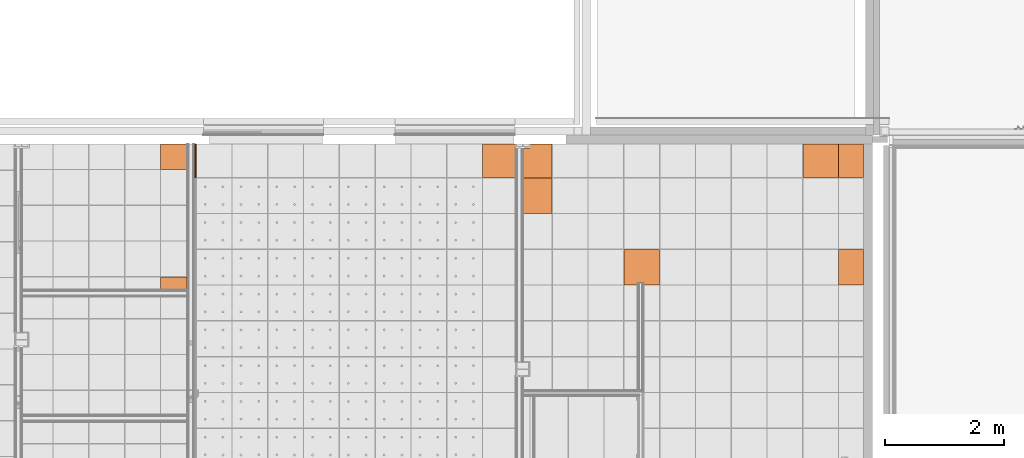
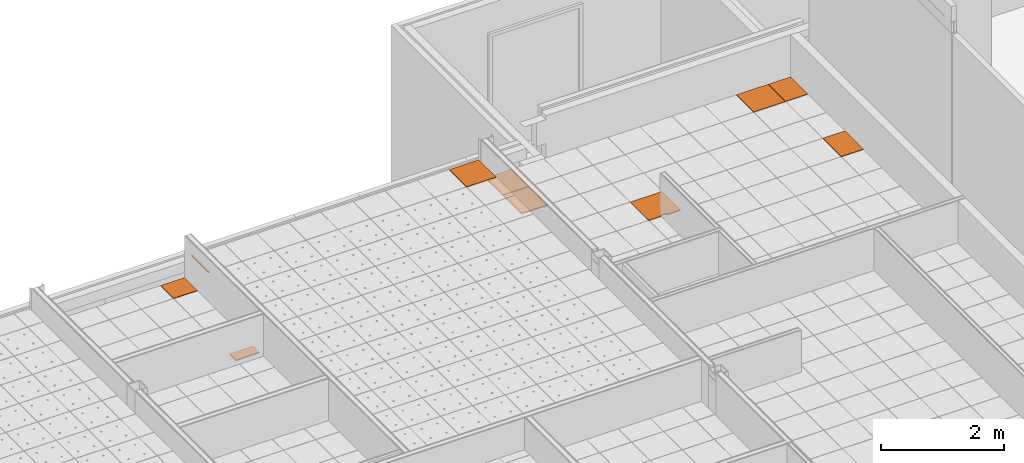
# One storey, part 336 of 338: 10 proxies, 3 elements without a shape of their own.
"""IFC2X3 building model written with IfcOpenShell, lengths in millimetres."""

from ifc_helpers import new_model, entity, si_unit, converted_unit, derived_unit, money_unit, direction, frame, origin_with_axes, place, context, subcontext, project, spatial, faceted_brep, material, type_object, element, aggregate, save


model = new_model("IFC2X3")

# Units and contexts
model_context = context("Model", 3, precision=0.01, world=origin_with_axes(), true_north=direction((0.0, 1.0)))
plan_context = context("Plan", 3, precision=0.01, world=origin_with_axes(), true_north=direction((0.0, 1.0)))
body_context = subcontext(model_context, "Body", "Model", "MODEL_VIEW")
ifc_project = project(units=[si_unit("LENGTHUNIT", "METRE", prefix="MILLI"), si_unit("AREAUNIT", "SQUARE_METRE"), si_unit("VOLUMEUNIT", "CUBIC_METRE"), converted_unit("PLANEANGLEUNIT", "DEGREE", entity("IfcPlaneAngleMeasure", 0.0174532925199), si_unit("PLANEANGLEUNIT", "RADIAN"), dimensions=[0, 0, 0, 0, 0, 0, 0]), money_unit("EUR"), converted_unit("TIMEUNIT", "Year", entity("IfcTimeMeasure", 31556926.0), si_unit("TIMEUNIT", "SECOND"), dimensions=[0, 0, 1, 0, 0, 0, 0]), si_unit("MASSUNIT", "GRAM", prefix="KILO"), si_unit("THERMODYNAMICTEMPERATUREUNIT", "DEGREE_CELSIUS"), si_unit("LUMINOUSINTENSITYUNIT", "LUMEN"), si_unit("ENERGYUNIT", "JOULE", prefix="MEGA"), derived_unit("THERMALCONDUCTANCEUNIT", [(si_unit("POWERUNIT", "WATT"), 1), (si_unit("LENGTHUNIT", "METRE"), -1), (si_unit("THERMODYNAMICTEMPERATUREUNIT", "KELVIN"), -1)]), derived_unit("SPECIFICHEATCAPACITYUNIT", [(si_unit("ENERGYUNIT", "JOULE"), 1), (si_unit("MASSUNIT", "GRAM", prefix="KILO"), -1), (si_unit("THERMODYNAMICTEMPERATUREUNIT", "KELVIN"), -1)]), derived_unit("MASSDENSITYUNIT", [(si_unit("MASSUNIT", "GRAM", prefix="KILO"), 1), (si_unit("VOLUMEUNIT", "CUBIC_METRE"), -1)])], contexts=[model_context, plan_context])

# Site, building, storey
site_placement = place(None, origin_with_axes())
site = spatial("IfcSite", under=ifc_project, at=site_placement, Name="Fortuinstraat Woensdrecht", CompositionType="ELEMENT")
building_placement = place(site_placement, origin_with_axes())
building = spatial("IfcBuilding", under=site, at=building_placement, Name="IKC Fortuna", CompositionType="ELEMENT")
storey_placement = place(building_placement, origin_with_axes())
storey = spatial("IfcBuildingStorey", under=building, at=storey_placement, Name="00 begane grond", CompositionType="ELEMENT", Elevation=0.0)

# Covering, proxy
covering_type = type_object("IfcCoveringType", Name="Curtain Wall Type", PredefinedType="CEILING")
covering_1_placement = place(storey_placement, frame((34473.6590305, 30882.3889696, 2810.0), z_axis=(0.0, 0.0, 1.0), x_axis=(1.0, 0.0, 0.0)))
covering_1 = element("IfcCovering", 1, at=covering_1_placement, inside=storey, type_object=covering_type, Name="45_Plafondafwerking_P02 v", PredefinedType="CEILING")
ifc_material = material(Name="Gipsplaat")
building_element_proxy_type_1 = type_object("IfcBuildingElementProxyType", Name="Distinct Panel 600 x 600 x 20", PredefinedType="NOTDEFINED")
proxy_1_placement = place(covering_1_placement, frame((-3519.53073382, 2258.52309173, 0.0), z_axis=(0.0, 0.0, 1.0), x_axis=(1.0, 0.0, 0.0)))
proxy_1 = element("IfcBuildingElementProxy", 2, at=proxy_1_placement, type_object=building_element_proxy_type_1, material=ifc_material, Name="__Panel-D", context=body_context, shape_type="Brep", body=[
    faceted_brep([(-287.737268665, 438.976908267, -10.0), (-287.737268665, 438.976908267, 9.99999999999), (307.262731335, 438.976908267, 9.99999999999), (307.262731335, 438.976908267, -10.0), (-287.737268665, -156.023091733, -10.0), (-287.737268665, -156.023091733, 9.99999999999), (-62.2627317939, -156.023091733, 9.99999999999), (-62.2627317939, -121.930725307, 9.99999999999), (42.7372682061, -121.930725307, 9.99999999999), (42.7372682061, -156.023091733, 9.99999999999), (307.262731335, -156.023091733, 9.99999999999), (307.262731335, -156.023091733, -10.0), (42.7372682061, -156.023091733, -10.0), (42.7372682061, -121.930725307, -10.0), (-62.2627317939, -121.930725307, -10.0), (-62.2627317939, -156.023091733, -10.0)], [[[0, 1, 2, 3]], [[4, 5, 1, 0]], [[1, 5, 6, 7, 8, 9, 10, 2]], [[3, 2, 10, 11]], [[0, 3, 11, 12, 13, 14, 15, 4]], [[15, 6, 5, 4]], [[14, 7, 6, 15]], [[13, 8, 7, 14]], [[12, 9, 8, 13]], [[11, 10, 9, 12]]]),
])

# Covering, proxies
covering_2_placement = place(storey_placement, frame((21994.4445848, 33013.5541843, 2810.0), z_axis=(0.0, 0.0, 1.0), x_axis=(1.0, 0.0, 0.0)))
covering_2 = element("IfcCovering", 3, at=covering_2_placement, inside=storey, type_object=covering_type, Name="45_Plafondafwerking_P02", PredefinedType="CEILING")
building_element_proxy_type_2 = type_object("IfcBuildingElementProxyType", Name="Distinct Panel 450 x 212 x 20", PredefinedType="NOTDEFINED")
proxy_2_placement = place(covering_2_placement, frame((1124.95518498, 6.8983752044e-06, 0.0), z_axis=(0.0, 0.0, 1.0), x_axis=(1.0, 0.0, 0.0)))
proxy_2 = element("IfcBuildingElementProxy", 4, at=proxy_2_placement, type_object=building_element_proxy_type_2, material=ifc_material, Name="__Panel-D", context=body_context, shape_type="Brep", body=[
    faceted_brep([(222.455174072, 103.742350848, -10.0), (-222.455184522, 103.742350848, -10.0), (-222.455184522, 103.742350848, 9.99999999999), (222.455174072, 103.742350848, 9.99999999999), (222.455194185, -103.742347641, -10.0), (-222.455184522, -103.742347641, -10.0), (-222.455184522, -103.742347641, 9.99999999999), (222.455194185, -103.742347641, 9.99999999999)], [[[0, 1, 2, 3]], [[0, 4, 5, 1]], [[1, 5, 6, 2]], [[3, 2, 6, 7]], [[4, 0, 3, 7]], [[5, 4, 7, 6]]]),
])
building_element_proxy_type_3 = type_object("IfcBuildingElementProxyType", Name="Distinct Panel 450 x 427 x 20", PredefinedType="NOTDEFINED")
proxy_3_placement = place(covering_2_placement, frame((1124.95518498, 2119.49240165, 0.0), z_axis=(0.0, 0.0, 1.0), x_axis=(1.0, 0.0, 0.0)))
proxy_3 = element("IfcBuildingElementProxy", 5, at=proxy_3_placement, type_object=building_element_proxy_type_3, material=ifc_material, Name="__Panel-D", context=body_context, shape_type="Brep", body=[
    faceted_brep([(222.455194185, 210.750059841, -10.0), (-222.455184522, 210.750033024, -10.0), (-222.455184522, 210.750033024, 9.99999999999), (222.455194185, 210.750059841, 9.99999999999), (222.455174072, -210.750046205, -10.0), (-222.455184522, -210.750046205, -10.0), (-222.455184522, -210.750046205, 9.99999999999), (222.455174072, -210.750046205, 9.99999999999)], [[[0, 1, 2, 3]], [[0, 4, 5, 1]], [[1, 5, 6, 2]], [[3, 2, 6, 7]], [[4, 0, 3, 7]], [[5, 4, 7, 6]]]),
])
aggregate(covering_2, [proxy_2, proxy_3])

# Proxy
building_element_proxy_type_4 = type_object("IfcBuildingElementProxyType", Name="Distinct Panel 420 x 600 x 20", PredefinedType="NOTDEFINED")
proxy_4_placement = place(covering_1_placement, frame((0.0, 2400.0, 1.80300219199e-10), z_axis=(0.0, 0.0, 1.0), x_axis=(1.0, 0.0, 0.0)))
proxy_4 = element("IfcBuildingElementProxy", 6, at=proxy_4_placement, type_object=building_element_proxy_type_4, material=ifc_material, Name="__Panel-D", context=body_context, shape_type="Brep", body=[
    faceted_brep([(-207.268001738, 297.5, -10.0), (-207.268001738, 297.5, 9.99999999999), (207.268002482, 297.5, 9.99999999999), (207.268002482, 297.5, -10.0), (-207.268001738, -297.5, -10.0), (-207.268001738, -297.5, 9.99999999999), (207.268002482, -297.5, 9.99999999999), (207.268002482, -297.5, -10.0)], [[[0, 1, 2, 3]], [[4, 5, 1, 0]], [[1, 5, 6, 2]], [[3, 2, 6, 7]], [[0, 3, 7, 4]], [[7, 6, 5, 4]]]),
])

building_element_proxy_type_5 = type_object("IfcBuildingElementProxyType", Name="Distinct Panel 487 x 600 x 20", PredefinedType="NOTDEFINED")
proxy_5_placement = place(covering_1_placement, frame((-5253.24603815, 3600.0, 0.0), z_axis=(0.0, 0.0, 1.0), x_axis=(1.0, 0.0, 0.0)))
proxy_5 = element("IfcBuildingElementProxy", 7, at=proxy_5_placement, type_object=building_element_proxy_type_5, material=ifc_material, Name="__Panel-D", context=body_context, shape_type="Brep", body=[
    faceted_brep([(-240.978038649, 297.5, -10.0), (-240.978038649, 297.5, 9.99999999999), (240.978035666, 297.5, 9.99999999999), (240.978035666, 297.5, -10.0), (-240.978038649, -297.5, -10.0), (-240.978038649, -297.5, 9.99999999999), (240.978035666, -297.5, 9.99999999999), (240.978035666, -297.5, -10.0)], [[[0, 1, 2, 3]], [[4, 5, 1, 0]], [[1, 5, 6, 2]], [[3, 2, 6, 7]], [[0, 3, 7, 4]], [[7, 6, 5, 4]]]),
])

building_element_proxy_type_6 = type_object("IfcBuildingElementProxyType", Name="Distinct Panel 600 x 564 x 20", PredefinedType="NOTDEFINED")
proxy_6_placement = place(covering_1_placement, frame((-509.768002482, 4181.95383322, 1.63868918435e-10), z_axis=(0.0, 0.0, 1.0), x_axis=(1.0, 0.0, 0.0)))
proxy_6 = element("IfcBuildingElementProxy", 8, at=proxy_6_placement, type_object=building_element_proxy_type_6, material=ifc_material, Name="__Panel-D", context=body_context, shape_type="Brep", body=[
    faceted_brep([(-297.5, 279.453809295, -10.0), (-297.5, 279.453809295, 9.99999999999), (297.5, 279.453853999, 9.99999999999), (297.5, 279.453853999, -10.0), (-297.5, -279.45383322, -10.0), (-297.5, -279.45383322, 9.99999999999), (297.5, -279.45383322, 9.99999999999), (297.5, -279.45383322, -10.0)], [[[0, 1, 2, 3]], [[4, 5, 1, 0]], [[1, 5, 6, 2]], [[3, 2, 6, 7]], [[0, 3, 7, 4]], [[7, 6, 5, 4]]]),
])

building_element_proxy_type_7 = type_object("IfcBuildingElementProxyType", Name="Distinct Panel 420 x 564 x 20", PredefinedType="NOTDEFINED")
proxy_7_placement = place(covering_1_placement, frame((-1.37605127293e-06, 4181.95384557, 1.80744308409e-10), z_axis=(0.0, 0.0, 1.0), x_axis=(1.0, 0.0, 0.0)))
proxy_7 = element("IfcBuildingElementProxy", 9, at=proxy_7_placement, type_object=building_element_proxy_type_7, material=ifc_material, Name="__Panel-D", context=body_context, shape_type="Brep", body=[
    faceted_brep([(-207.268004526, 279.453843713, -10.0), (-207.268004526, 279.453843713, 9.99999999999), (207.268002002, 279.453843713, 9.99999999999), (207.268002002, 279.453843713, -10.0), (-207.268004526, -279.453843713, -10.0), (-207.268004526, -279.453843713, 9.99999999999), (207.268002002, -279.453843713, 9.99999999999), (207.268002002, -279.453843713, -10.0)], [[[0, 1, 2, 3]], [[4, 5, 1, 0]], [[1, 5, 6, 2]], [[3, 2, 6, 7]], [[0, 3, 7, 4]], [[7, 6, 5, 4]]]),
])

building_element_proxy_type_8 = type_object("IfcBuildingElementProxyType", Name="Distinct Panel 372 x 564 x 20", PredefinedType="NOTDEFINED")
proxy_8_placement = place(covering_1_placement, frame((-5296.07204172, 4255.43843061, 0.0), z_axis=(0.0, 0.0, 1.0), x_axis=(1.0, 0.0, 0.0)))
proxy_8 = element("IfcBuildingElementProxy", 10, at=proxy_8_placement, type_object=building_element_proxy_type_8, material=ifc_material, Name="__Panel-D", context=body_context, shape_type="Brep", body=[
    faceted_brep([(-83.1520051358, 205.969219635, -10.0), (-83.1520051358, 205.969219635, 9.99999999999), (283.804037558, 205.969211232, 9.99999999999), (283.804037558, 205.969211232, -10.0), (-83.1520051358, 144.469213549, -10.0), (-83.1520051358, 144.469213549, 9.99999999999), (-198.152032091, 144.469213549, 9.99999999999), (-198.152032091, -352.938428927, 9.99999999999), (283.804037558, -352.938428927, 9.99999999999), (283.804037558, -352.938428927, -10.0), (-198.152032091, -352.938428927, -10.0), (-198.152032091, 144.469213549, -10.0)], [[[0, 1, 2, 3]], [[4, 5, 1, 0]], [[1, 5, 6, 7, 8, 2]], [[3, 2, 8, 9]], [[0, 3, 9, 10, 11, 4]], [[11, 6, 5, 4]], [[10, 7, 6, 11]], [[9, 8, 7, 10]]]),
])

aggregate(covering_1, [proxy_7, proxy_5, proxy_4, proxy_8, proxy_1, proxy_6])

# Covering, proxies
covering_3_placement = place(storey_placement, frame((24394.3550152, 31482.3495284, 3210.0), z_axis=(0.0, 0.0, 1.0), x_axis=(1.0, 0.0, 0.0)))
covering_3 = element("IfcCovering", 11, at=covering_3_placement, inside=storey, type_object=covering_type, Name="45_Plafondafwerking_P01", PredefinedType="CEILING")
building_element_proxy_type_9 = type_object("IfcBuildingElementProxyType", Name="25 x 564 x 20", PredefinedType="NOTDEFINED")
proxy_9_placement = place(covering_3_placement, frame((-912.500028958, 3581.97357793, 1.75859327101e-10), z_axis=(0.0, 0.0, 1.0), x_axis=(1.0, 0.0, 0.0)))
proxy_9 = element("IfcBuildingElementProxy", 12, at=proxy_9_placement, type_object=building_element_proxy_type_9, material=ifc_material, Name="__600x608 Rockfon Krios", context=body_context, shape_type="Brep", body=[
    faceted_brep([(10.0000293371, 279.473577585, -10.0), (-10.000023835, 279.473577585, -10.0), (-10.000023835, 279.473577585, 10.0), (10.0000293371, 279.473577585, 10.0), (10.0000293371, -279.473577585, -10.0), (-10.0000322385, -279.473577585, -10.0), (-10.0000322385, -279.473577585, 10.0), (10.0000293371, -279.473577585, 10.0)], [[[0, 1, 2, 3]], [[0, 4, 5, 1]], [[1, 5, 6, 2]], [[3, 2, 6, 7]], [[4, 0, 3, 7]], [[5, 4, 7, 6]]]),
])
building_element_proxy_type_10 = type_object("IfcBuildingElementProxyType", Name="553 x 564 x 20", PredefinedType="NOTDEFINED")
proxy_10_placement = place(covering_3_placement, frame((4270.0533275, 3655.46474097, 0.0), z_axis=(0.0, 0.0, 1.0), x_axis=(1.0, 0.0, 0.0)))
proxy_10 = element("IfcBuildingElementProxy", 13, at=proxy_10_placement, type_object=building_element_proxy_type_10, material=ifc_material, Name="__600x630 Rockfon Krios", context=body_context, shape_type="Brep", body=[
    faceted_brep([(180.026665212, 205.982338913, -10.0), (-367.553327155, 205.982414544, -10.0), (-367.553327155, 205.982414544, 9.99999999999), (180.026665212, 205.982338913, 9.99999999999), (180.026766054, 144.482360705, -10.0), (185.026623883, 144.482360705, -10.0), (185.026615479, -352.964740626, -10.0), (-367.553327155, -352.964740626, -10.0), (-367.553327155, -352.964740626, 9.99999999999), (185.026615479, -352.964740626, 9.99999999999), (185.026623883, 144.482360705, 9.99999999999), (180.026766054, 144.482360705, 9.99999999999)], [[[0, 1, 2, 3]], [[0, 4, 5, 6, 7, 1]], [[1, 7, 8, 2]], [[3, 2, 8, 9, 10, 11]], [[4, 0, 3, 11]], [[5, 4, 11, 10]], [[6, 5, 10, 9]], [[7, 6, 9, 8]]]),
])
aggregate(covering_3, [proxy_9, proxy_10])

save(model, "model.ifc")
